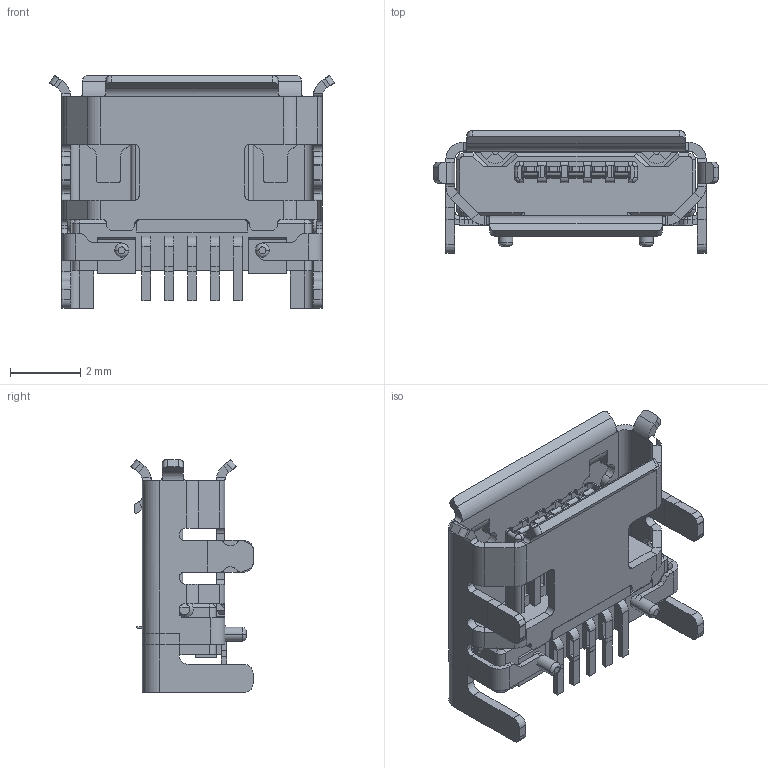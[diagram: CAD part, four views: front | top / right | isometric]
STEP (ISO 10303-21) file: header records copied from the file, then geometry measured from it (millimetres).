
FILE_DESCRIPTION((''),'2;1');
FILE_NAME('ASM0012_ASM','2023-02-08T',('Administrator'),(''),'PRO/ENGINEER BY PARAMETRIC TECHNOLOGY CORPORATION, 2009440','PRO/ENGINEER BY PARAMETRIC TECHNOLOGY CORPORATION, 2009440','');
FILE_SCHEMA(('CONFIG_CONTROL_DESIGN'));
Length unit declared in the file: millimetre
Products named in the file (20): PRT0022; PRT0023; PRT0024; PRT0025; PRT0026; PRT0027; PRT0028; PRT0029; PRT0030; PRT0031; PRT0032; PRT0033; PRT0034; PRT0035; PRT0036; PRT0037; _ASM0012; PRT0044; PRT0045; ASM0012_ASM
Assembly tree (19 placements, depth 2):
  ASM0012_ASM
    PRT0022
    PRT0023
    PRT0024
    PRT0025
    PRT0026
    PRT0027
    PRT0028
    PRT0029
    PRT0030
    PRT0031
    PRT0032
    PRT0033
    PRT0034
    PRT0035
    PRT0036
    PRT0037
    _ASM0012
    PRT0044
    PRT0045
Bounding box: 8.1 x 3.47 x 6.62 mm (x, y, z)
Volume: 4.5 mm3; surface area: 319.3 mm2
Topology: 12 solids, 22 shells, 841 faces, 2270 edges, 1437 vertices
Faces by surface type: plane 557, cylinder 244, cone 30, bspline 10
Entity records: 27225 total; most frequent: CARTESIAN_POINT 6126, DIRECTION 4289, ORIENTED_EDGE 4117, EDGE_CURVE 2270, VECTOR 1605, LINE 1605, VERTEX_POINT 1437, AXIS2_PLACEMENT_3D 1342
